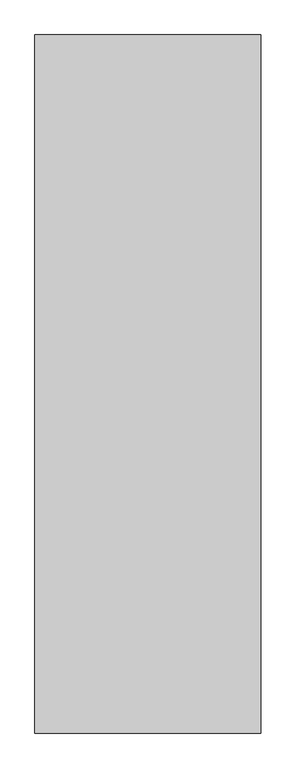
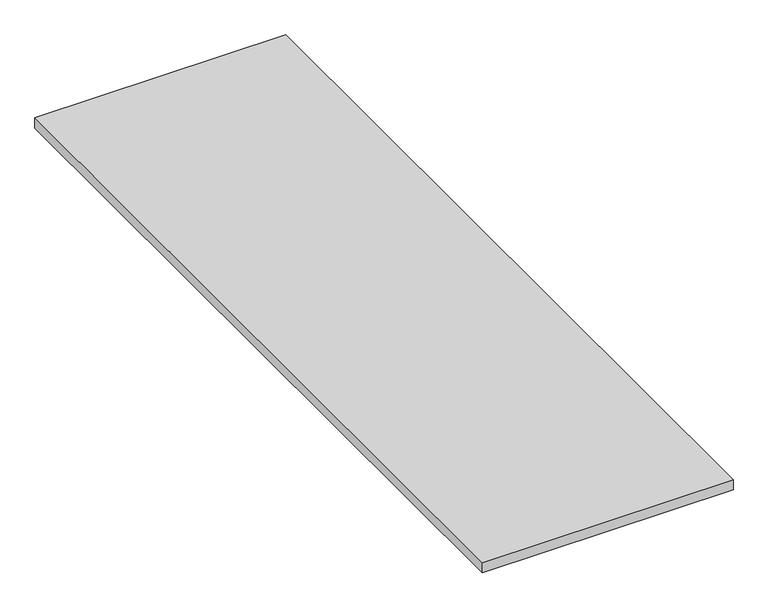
"""IFC4 building model written with IfcOpenShell, lengths in millimetres: furniture geometry, BIMHealth-Worktop_Parametric-LOD2A-v1 : BIMHealth-Worktop_Parametric-LOD2A-v1."""

import ifcopenshell
import ifcopenshell.guid

model = None  # the IFC model being written
_history = None  # IfcOwnerHistory: only IFC2X3 demands one
_inside = {}  # id of a spatial element -> (the spatial element, [elements in it])
_under = {}  # id of a project, library or spatial element -> (it, [spatial elements below it])
_declared = {}  # id of a project -> (the project, [libraries it declares])
_typed = {}  # id of a type object -> (the type object, [elements of that type])
_made_of = {}  # id of a material, layer set ... -> (it, [elements and type objects made of it])


def new_model(schema):
    """Start an empty IFC model of exactly this schema.

    Asked for "IFC4X3", IfcOpenShell would pick the latest addendum, in which some entities
    have other attributes; the version numbers below select the first issue.
    IFC2X3 requires an IfcOwnerHistory on every rooted entity: one is made here for all.
    """
    global model, _history
    if schema == "IFC4X3":
        model = ifcopenshell.file(schema_version=(4, 3, 0, 0))
    else:
        model = ifcopenshell.file(schema=schema)
    _inside.clear()
    _under.clear()
    _declared.clear()
    _typed.clear()
    _made_of.clear()
    _history = None
    if model.schema == "IFC2X3":
        org = make("IfcOrganization", Name="unknown")
        user = make(
            "IfcPersonAndOrganization",
            ThePerson=make("IfcPerson", FamilyName="unknown"),
            TheOrganization=org,
        )
        app = make(
            "IfcApplication",
            ApplicationDeveloper=org,
            Version="unknown",
            ApplicationFullName="unknown",
            ApplicationIdentifier="unknown",
        )
        _history = make(
            "IfcOwnerHistory",
            OwningUser=user,
            OwningApplication=app,
            ChangeAction="ADDED",
            CreationDate=0,
        )
    return model


def make(cls, **values):
    """One entity of the class cls with the attributes given. An attribute that is None is left unset."""
    return model.create_entity(
        cls, **{name: value for name, value in values.items() if value is not None}
    )


def rooted(cls, **values):
    """An entity with a GlobalId (a new one), such as an element, a storey or a relation."""
    return make(cls, GlobalId=ifcopenshell.guid.new(), OwnerHistory=_history, **values)


def si_unit(unit_type, name, prefix=None):
    """IfcSIUnit, for example si_unit("LENGTHUNIT", "METRE", prefix="MILLI")."""
    return make("IfcSIUnit", UnitType=unit_type, Prefix=prefix, Name=name)


def assignment(units):
    """IfcUnitAssignment: the units of a project."""
    return None if units is None else make("IfcUnitAssignment", Units=units)


def point(xyz):
    """IfcCartesianPoint."""
    return None if xyz is None else make("IfcCartesianPoint", Coordinates=xyz)


def direction(xyz):
    """IfcDirection."""
    return None if xyz is None else make("IfcDirection", DirectionRatios=xyz)


def frame(location, z_axis=None, x_axis=None):
    """IfcAxis2Placement3D, a coordinate frame: its origin and axes. An axis left out is left unset."""
    return make(
        "IfcAxis2Placement3D",
        Location=point(location),
        Axis=direction(z_axis),
        RefDirection=direction(x_axis),
    )


def origin():
    """The frame at (0, 0, 0) with its axes left unset."""
    return frame((0.0, 0.0, 0.0))


def place(relative_to, where):
    """IfcLocalPlacement: puts the frame where relative to a parent placement (None: the world)."""
    return make(
        "IfcLocalPlacement", PlacementRelTo=relative_to, RelativePlacement=where
    )


def context(
    kind, dimensions, precision=None, world=None, true_north=None, identifier=None
):
    """IfcGeometricRepresentationContext, for example the 3D "Model" context."""
    return make(
        "IfcGeometricRepresentationContext",
        ContextIdentifier=identifier,
        ContextType=kind,
        CoordinateSpaceDimension=dimensions,
        Precision=precision,
        WorldCoordinateSystem=world,
        TrueNorth=true_north,
    )


def project(units=None, contexts=None):
    """IfcProject with its units and contexts."""
    return rooted(
        "IfcProject",
        Name="project",
        RepresentationContexts=contexts,
        UnitsInContext=assignment(units),
    )


def spatial(cls, under=None, at=None, **own):
    """A site, building, storey or space (cls), placed at a placement, below another one or the project."""
    s = rooted(cls, ObjectPlacement=at, **own)
    if under is not None:
        _under.setdefault(under.id(), (under, []))[1].append(s)
    return s


def polyline(points):
    """IfcPolyline through the points."""
    return make("IfcPolyline", Points=[point(p) for p in points])


def outline(outer, holes=None, kind="AREA"):
    """IfcArbitraryClosedProfileDef: a profile drawn as a closed curve; with holes, ...WithVoids."""
    if holes is None:
        return make("IfcArbitraryClosedProfileDef", ProfileType=kind, OuterCurve=outer)
    return make(
        "IfcArbitraryProfileDefWithVoids",
        ProfileType=kind,
        OuterCurve=outer,
        InnerCurves=holes,
    )


def extrude(swept, where, along, depth):
    """IfcExtrudedAreaSolid: the profile swept, set in the frame where, extruded along a direction by depth."""
    return make(
        "IfcExtrudedAreaSolid",
        SweptArea=swept,
        Position=where,
        ExtrudedDirection=direction(along),
        Depth=depth,
    )


def shape(context_of_items, identifier, shape_type, items):
    """IfcShapeRepresentation: the items that make up one representation, for example the "Body"."""
    return make(
        "IfcShapeRepresentation",
        ContextOfItems=context_of_items,
        RepresentationIdentifier=identifier,
        RepresentationType=shape_type,
        Items=items,
    )


def source(mapping_origin, context_of_items, identifier, shape_type, items):
    """IfcRepresentationMap: a shape defined once, which mapped items show again and again."""
    return make(
        "IfcRepresentationMap",
        MappingOrigin=mapping_origin,
        MappedRepresentation=shape(context_of_items, identifier, shape_type, items),
    )


def transform(
    local_origin,
    x_axis=None,
    y_axis=None,
    z_axis=None,
    scale=None,
    scale2=None,
    scale3=None,
    uniform=True,
):
    """IfcCartesianTransformationOperator3D, or its non-uniform kind. x_axis, y_axis, z_axis: its Axis1, 2, 3."""
    if uniform:
        return make(
            "IfcCartesianTransformationOperator3D",
            Axis1=direction(x_axis),
            Axis2=direction(y_axis),
            LocalOrigin=point(local_origin),
            Scale=scale,
            Axis3=direction(z_axis),
        )
    return make(
        "IfcCartesianTransformationOperator3DnonUniform",
        Axis1=direction(x_axis),
        Axis2=direction(y_axis),
        LocalOrigin=point(local_origin),
        Scale=scale,
        Axis3=direction(z_axis),
        Scale2=scale2,
        Scale3=scale3,
    )


def mapped(mapping_source, mapping_target):
    """IfcMappedItem: shows the shape of a source again, moved by a transform."""
    return make(
        "IfcMappedItem", MappingSource=mapping_source, MappingTarget=mapping_target
    )


def made_of(thing, what):
    """Note that an element or type object is made of a material, layer set ...; save() writes the relation."""
    if what is not None:
        _made_of.setdefault(what.id(), (what, []))[1].append(thing)
    return thing


def element(
    cls,
    number,
    at=None,
    inside=None,
    cuts=None,
    type_object=None,
    material=None,
    context=None,
    identifier="Body",
    shape_type=None,
    held_by="IfcProductDefinitionShape",
    body=None,
    shapes=None,
    **own,
):
    """One element of the class cls, such as IfcWall. Its Tag is "e" and its number.

    at: its placement. inside: the storey or other place that contains it. cuts: it is an
    opening in that element (IfcRelVoidsElement). A single representation is given by context,
    identifier, shape_type and body (its items); several are given by shapes. held_by: the class
    of the entity that holds the representations. save() writes the other relations.
    """
    e = rooted(cls, Tag="e%d" % number, ObjectPlacement=at, **own)
    if body is not None:
        shapes = [shape(context, identifier, shape_type, body)]
    if shapes is not None:
        e.Representation = make(held_by, Representations=shapes)
    if inside is not None:
        _inside.setdefault(inside.id(), (inside, []))[1].append(e)
    if cuts is not None:
        rooted(
            "IfcRelVoidsElement", RelatingBuildingElement=cuts, RelatedOpeningElement=e
        )
    if type_object is not None:
        _typed.setdefault(type_object.id(), (type_object, []))[1].append(e)
    return made_of(e, material)


def aggregate(whole, parts):
    """IfcRelAggregates: a whole, such as a stair, and the parts it consists of."""
    return rooted("IfcRelAggregates", RelatingObject=whole, RelatedObjects=parts)


def save(model, path):
    """Write the relations noted so far, then the file.

    IfcRelAggregates (storeys below a building ...), IfcRelContainedInSpatialStructure (elements
    in a storey), IfcRelDefinesByType, IfcRelAssociatesMaterial and IfcRelDeclares: one each for
    every whole, place, type object, material and project.
    """
    for whole, parts in _under.values():
        aggregate(whole, parts)
    for where, things in _inside.values():
        rooted(
            "IfcRelContainedInSpatialStructure",
            RelatedElements=things,
            RelatingStructure=where,
        )
    for kind, things in _typed.values():
        rooted("IfcRelDefinesByType", RelatedObjects=things, RelatingType=kind)
    for what, things in _made_of.values():
        rooted("IfcRelAssociatesMaterial", RelatedObjects=things, RelatingMaterial=what)
    for by, libraries in _declared.values():
        rooted("IfcRelDeclares", RelatingContext=by, RelatedDefinitions=libraries)
    model.write(path)


def furniture_4c9f86ae(model_context):
    return source(origin(), model_context, "Body", "SweptSolid", [
        extrude(outline(polyline([(-550.0, 1434.7174694), (32.0000626, 1434.7174694), (32.0000626, -365.2825306), (-550.0, -365.2825306), (-550.0, 1434.7174694)])), frame((0.0, 0.0, 860.0), z_axis=(0.0, 0.0, 1.0), x_axis=(1.0, 0.0, 0.0)), (0.0, 0.0, 1.0), 25.0),
    ])


if __name__ == "__main__":
    model = new_model("IFC4")
    model_context = context("Model", 3, world=origin())
    ifc_project = project(units=[si_unit("LENGTHUNIT", "METRE", prefix="MILLI")], contexts=[model_context])
    site = spatial("IfcSite", under=ifc_project)
    building = spatial("IfcBuilding", under=site)
    placement = place(None, origin())
    furniture_shape = furniture_4c9f86ae(model_context)
    element("IfcFurniture", 1, ObjectType="BIMHealth-Worktop_Parametric-LOD2A-v1 : BIMHealth-Worktop_Parametric-LOD2A-v1", at=placement, inside=building, context=model_context, shape_type="MappedRepresentation", body=[
        mapped(furniture_shape, transform((0.0, 0.0, 0.0), x_axis=(1.0, 0.0, 0.0), y_axis=(0.0, 1.0, 0.0), z_axis=(0.0, 0.0, 1.0))),
    ])
    save(model, "model.ifc")
